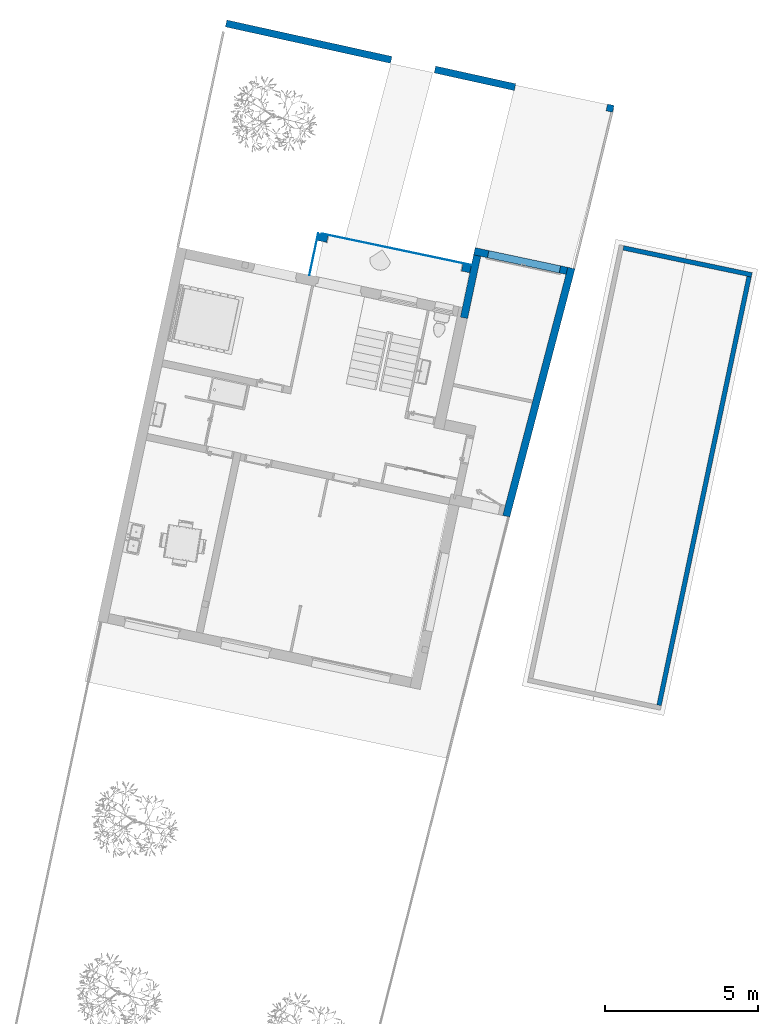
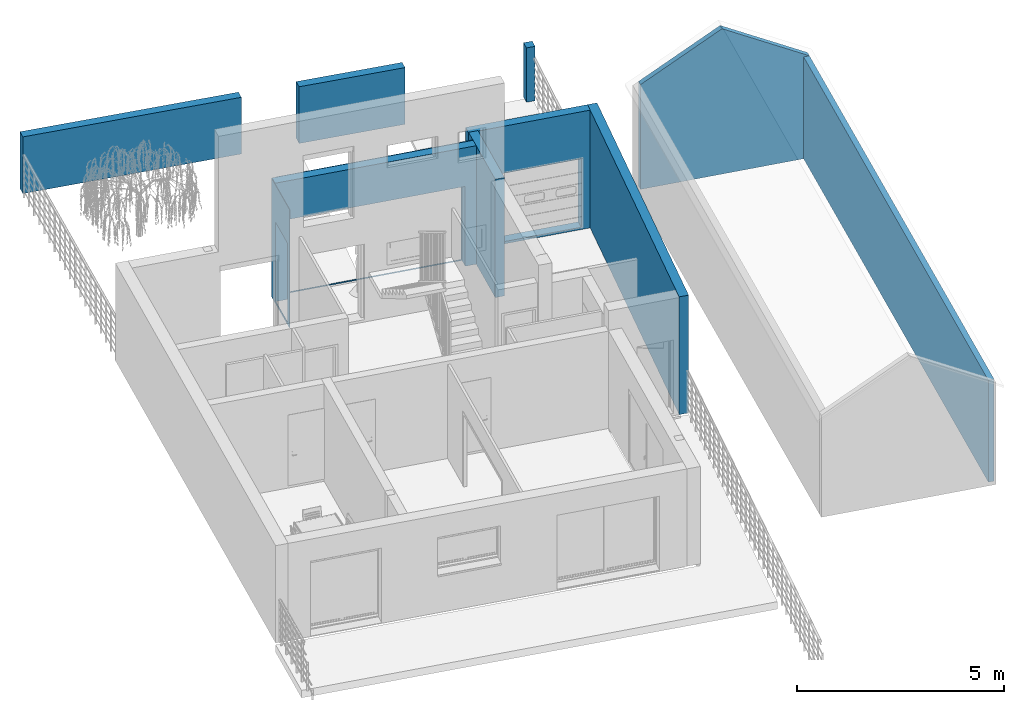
# One storey, part 5 of 20: 11 walls, 7 openings.
"""IFC2X3 building model written with IfcOpenShell, lengths in metres."""

from ifc_helpers import new_model, entity, si_unit, converted_unit, derived_unit, direction, frame, frame_2d, origin, origin_2d_with_axis, place, context, subcontext, project, spatial, polyline, rectangle, outline, extrude, clip, bounded_halfspace, faceted_brep, material, layer, layer_set, layer_usage, type_object, element, save


model = new_model("IFC2X3")

# Units and contexts
model_context = context("Model", 3, precision=1e-05, world=origin(), true_north=direction((6.12303176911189e-17, 1.0)))
body_context = subcontext(model_context, "Body", "Model", "MODEL_VIEW")
ifc_project = project(units=[si_unit("LENGTHUNIT", "METRE"), si_unit("AREAUNIT", "SQUARE_METRE"), si_unit("VOLUMEUNIT", "CUBIC_METRE"), converted_unit("PLANEANGLEUNIT", "DEGREE", entity("IfcRatioMeasure", 0.0174532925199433), si_unit("PLANEANGLEUNIT", "RADIAN"), dimensions=[0, 0, 0, 0, 0, 0, 0]), si_unit("MASSUNIT", "GRAM", prefix="KILO"), derived_unit("MASSDENSITYUNIT", [(si_unit("MASSUNIT", "GRAM", prefix="KILO"), 1), (si_unit("LENGTHUNIT", "METRE"), -3)]), si_unit("TIMEUNIT", "SECOND"), si_unit("FREQUENCYUNIT", "HERTZ"), si_unit("THERMODYNAMICTEMPERATUREUNIT", "DEGREE_CELSIUS"), derived_unit("THERMALTRANSMITTANCEUNIT", [(si_unit("MASSUNIT", "GRAM", prefix="KILO"), 1), (si_unit("THERMODYNAMICTEMPERATUREUNIT", "KELVIN"), -1), (si_unit("TIMEUNIT", "SECOND"), -3)]), derived_unit("VOLUMETRICFLOWRATEUNIT", [(si_unit("LENGTHUNIT", "METRE"), 3), (si_unit("TIMEUNIT", "SECOND"), -1)]), si_unit("ELECTRICCURRENTUNIT", "AMPERE"), si_unit("ELECTRICVOLTAGEUNIT", "VOLT"), si_unit("POWERUNIT", "WATT"), si_unit("FORCEUNIT", "NEWTON", prefix="KILO"), si_unit("ILLUMINANCEUNIT", "LUX"), si_unit("LUMINOUSFLUXUNIT", "LUMEN"), si_unit("LUMINOUSINTENSITYUNIT", "CANDELA"), derived_unit("USERDEFINED", [(si_unit("MASSUNIT", "GRAM", prefix="KILO"), -1), (si_unit("LENGTHUNIT", "METRE"), -2), (si_unit("TIMEUNIT", "SECOND"), 3), (si_unit("LUMINOUSFLUXUNIT", "LUMEN"), 1)]), derived_unit("LINEARVELOCITYUNIT", [(si_unit("LENGTHUNIT", "METRE"), 1), (si_unit("TIMEUNIT", "SECOND"), -1)]), si_unit("PRESSUREUNIT", "PASCAL"), derived_unit("USERDEFINED", [(si_unit("LENGTHUNIT", "METRE"), -2), (si_unit("MASSUNIT", "GRAM", prefix="KILO"), 1), (si_unit("TIMEUNIT", "SECOND"), -2)])], contexts=[model_context])

# Site, building, storey
site_placement = place(None, origin())
site = spatial("IfcSite", under=ifc_project, at=site_placement, Name="Default", CompositionType="ELEMENT")
building_placement = place(site_placement, origin())
building = spatial("IfcBuilding", under=site, at=building_placement, CompositionType="ELEMENT")
storey_placement = place(building_placement, frame((0.0, 0.0, -0.0686871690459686)))
storey = spatial("IfcBuildingStorey", under=building, at=storey_placement, Name="RDC", CompositionType="ELEMENT", Elevation=-0.0686871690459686)

# Wall, openings
ifc_material_1 = material(Name="Enduit blanc cassé2")
ifc_layer_1 = layer(ifc_material_1, 0.02)
ifc_material_2 = material(Name="Parpaing")
ifc_layer_2 = layer(ifc_material_2, 0.2)
ifc_layer_3 = layer(ifc_material_1, 0.02)
ifc_layer_set_1 = layer_set([ifc_layer_1, ifc_layer_2, ifc_layer_3], Name="Mur de base:Ext. Parpaing 2 + 20 + 2")
ifc_layer_usage_1 = layer_usage(ifc_layer_set_1, "AXIS2", "POSITIVE", -0.12)
wall_type_1 = type_object("IfcWallType", Name="Mur de base:Ext. Parpaing 2 + 20 + 2", PredefinedType="STANDARD", material=ifc_layer_set_1)
wall_1_placement = place(storey_placement, frame((-9.06273219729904, 78.4791730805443, 0.0), z_axis=(0.0, 0.0, 1.0), x_axis=(0.254023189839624, 0.967198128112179, 0.0)))
wall_1 = element("IfcWallStandardCase", 1, at=wall_1_placement, inside=storey, type_object=wall_type_1, material=ifc_layer_usage_1, Name="Mur de base:Ext. Parpaing 2 + 20 + 2", ObjectType="Mur de base:Ext. Parpaing 2 + 20 + 2", context=body_context, shape_type="SweptSolid", body=[
    extrude(outline(polyline([(8.3962930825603, -0.12), (8.38480390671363, 0.119999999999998), (8.14452906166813, 0.119999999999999), (3.89701748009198, 0.119999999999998), (3.79689332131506, 0.119999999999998), (0.340389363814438, 0.119999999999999), (0.0, 0.120000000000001), (0.0114891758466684, -0.12), (8.3962930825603, -0.12)])), origin(), (0.0, 0.0, 1.0), 3.46868716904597),
])
opening_1_placement = place(wall_1_placement, origin())
element("IfcOpeningElement", 2, at=opening_1_placement, cuts=wall_1, Name="Mur de base:Ext. Parpaing 2 + 20 + 2", ObjectType="Opening", context=body_context, shape_type="SweptSolid", body=[
    extrude(rectangle(XDim=2.01500000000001, YDim=0.840000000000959, at=frame_2d((0.0, -1.11022302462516e-16), x_axis=(1.0, 0.0))), frame((8.25361621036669, 0.350831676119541, 1.07618716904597), z_axis=(-0.0478168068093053, 0.998856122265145, 0.0), x_axis=(0.0, 0.0, -1.0)), (0.0, 0.0, 1.0), 2.39999999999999),
])
opening_2_placement = place(wall_1_placement, frame((-0.535205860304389, 1.12094692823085, 0.0686871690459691)))
element("IfcOpeningElement", 3, at=opening_2_placement, cuts=wall_1, Name="Mur de base:Ext. Parpaing 2 + 20 + 2", ObjectType="Opening", context=body_context, shape_type="Brep", body=[
    faceted_brep([(1.16754036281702, -0.825510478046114, 2.15999999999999), (1.12354890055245, 0.093437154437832, 2.15999999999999), (0.831882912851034, 0.0794746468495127, 2.15999999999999), (0.875874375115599, -0.839472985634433, 2.15999999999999), (0.228615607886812, -0.870458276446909, 0.0), (0.184624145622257, 0.0484893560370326, 0.0), (0.724006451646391, 0.0743104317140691, 0.0), (0.723528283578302, 0.0842989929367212, 0.0), (0.771473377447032, 0.0865941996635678, 0.0), (0.770038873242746, 0.116559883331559, 0.0), (0.829970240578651, 0.119428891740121, 0.0), (0.831882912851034, 0.0794746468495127, 0.0), (1.12354890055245, 0.093437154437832, 0.0), (1.16754036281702, -0.825510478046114, 0.0), (0.87587437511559, -0.839472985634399, 0.0), (0.877787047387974, -0.879427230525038, 0.0), (0.817855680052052, -0.882296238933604, 0.0), (0.816421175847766, -0.852330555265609, 0.0), (0.768476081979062, -0.854625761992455, 0.0), (0.767997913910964, -0.844637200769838, 0.0), (0.228615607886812, -0.870458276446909, 2.15999999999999), (0.184624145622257, 0.0484893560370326, 2.15999999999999), (0.7240064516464, 0.0743104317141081, 2.15999999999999), (0.771473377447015, 0.0865941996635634, 2.16999999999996), (0.816421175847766, -0.852330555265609, 2.16999999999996), (0.817855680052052, -0.882296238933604, 2.2), (0.770038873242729, 0.116559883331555, 2.2), (0.723528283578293, 0.0842989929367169, 2.16999999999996), (0.767997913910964, -0.844637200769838, 2.15999999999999), (0.768476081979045, -0.85462576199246, 2.16999999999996), (0.829970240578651, 0.119428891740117, 2.2), (0.877787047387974, -0.879427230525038, 2.2)], [[[0, 1, 2, 3]], [[4, 5, 6, 7, 8, 9, 10, 11, 12, 13, 14, 15, 16, 17, 18, 19]], [[13, 0, 3, 14]], [[20, 21, 5, 4]], [[5, 21, 22, 6]], [[1, 0, 13, 12]], [[9, 8, 23, 24, 17, 16, 25, 26]], [[8, 7, 27, 23]], [[7, 6, 22, 28, 19, 18, 29, 27]], [[11, 10, 30, 31, 15, 14, 3, 2]], [[10, 9, 26, 30]], [[24, 23, 27, 29]], [[26, 25, 31, 30]], [[17, 24, 29, 18]], [[25, 16, 15, 31]], [[1, 12, 11, 2]], [[20, 4, 19, 28]], [[21, 20, 28, 22]]]),
])

# Wall, opening
ifc_layer_usage_2 = layer_usage(ifc_layer_set_1, "AXIS2", "POSITIVE", -0.12)
wall_2_placement = place(storey_placement, frame((-7.07375945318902, 86.5020339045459, 0.0), z_axis=(0.0, 0.0, 1.0), x_axis=(-0.978238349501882, 0.207484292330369, 0.0)))
wall_2 = element("IfcWallStandardCase", 4, at=wall_2_placement, inside=storey, type_object=wall_type_1, material=ifc_layer_usage_2, Name="Mur de base:Ext. Parpaing 2 + 20 + 2", ObjectType="Mur de base:Ext. Parpaing 2 + 20 + 2", context=body_context, shape_type="SweptSolid", body=[
    extrude(outline(polyline([(3.09684060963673, -0.119999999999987), (3.09684060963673, 0.120000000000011), (2.85684060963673, 0.120000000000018), (0.0114891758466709, 0.120000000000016), (0.0, -0.119999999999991), (3.09684060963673, -0.119999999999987)])), origin(), (0.0, 0.0, 1.0), 3.46868716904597),
])
opening_3_placement = place(wall_2_placement, frame((-24.8676360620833, 83.1519129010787, 0.0686871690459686), z_axis=(0.0, 0.0, 1.0), x_axis=(-0.978238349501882, -0.207484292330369, 0.0)))
element("IfcOpeningElement", 5, at=opening_3_placement, cuts=wall_2, Name="Mur de base:Ext. Parpaing 2 + 20 + 2", ObjectType="Opening", context=body_context, shape_type="SweptSolid", body=[
    extrude(rectangle(XDim=2.01500000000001, YDim=2.39999999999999, at=frame_2d((0.0, 1.11022302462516e-15), x_axis=(1.0, 0.0))), frame((-8.39218863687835, 87.2110158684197, 1.0075), z_axis=(-0.207484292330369, -0.978238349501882, 0.0), x_axis=(0.0, 0.0, -1.0)), (0.0, 0.0, 1.0), 0.840000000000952),
])

# Wall, openings
ifc_layer_usage_3 = layer_usage(ifc_layer_set_1, "AXIS2", "NEGATIVE", 0.12)
wall_3_placement = place(storey_placement, frame((-10.2276982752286, 86.5576366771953, 0.0), z_axis=(0.0, 0.0, 1.0), x_axis=(-0.978238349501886, 0.20748429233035, 0.0)))
wall_3 = element("IfcWallStandardCase", 6, at=wall_3_placement, inside=storey, type_object=wall_type_1, material=ifc_layer_usage_3, Name="Mur de base:Ext. Parpaing 2 + 20 + 2", ObjectType="Mur de base:Ext. Parpaing 2 + 20 + 2", context=body_context, shape_type="SweptSolid", body=[
    extrude(rectangle(XDim=5.10499966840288, YDim=0.240000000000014, at=frame_2d((2.55249983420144, -8.46545056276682e-16), x_axis=(-1.0, 0.0))), origin(), (0.0, 0.0, 1.0), 3.48868716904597),
])
opening_4_placement = place(wall_3_placement, origin())
element("IfcOpeningElement", 7, at=opening_4_placement, cuts=wall_3, Name="Mur de base:Ext. Parpaing 2 + 20 + 2", ObjectType="Opening", context=body_context, shape_type="SweptSolid", body=[
    extrude(rectangle(XDim=2.34999999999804, YDim=0.240000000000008, at=frame_2d((0.0, 0.0), x_axis=(0.0, 1.0))), frame((4.98499966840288, 0.160239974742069, 1.24368716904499), z_axis=(0.0, 1.0, 0.0), x_axis=(-1.0, 0.0, 0.0)), (0.0, 0.0, 1.0), 0.999999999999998),
])
opening_5_placement = place(wall_3_placement, frame((4.77999999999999, 0.120000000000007, 0.0)))
element("IfcOpeningElement", 8, at=opening_5_placement, cuts=wall_3, Name="Ouverture en rectangle:Ouverture en rectangle 4.50 M 3:1", ObjectType="Opening", context=body_context, shape_type="SweptSolid", body=[
    extrude(rectangle(XDim=2.34999999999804, YDim=4.5, at=frame_2d((1.17499999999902, 2.25), x_axis=(1.0, 0.0))), frame((0.0, 0.0, 0.0), z_axis=(0.0, -1.0, 0.0), x_axis=(0.0, 0.0, 1.0)), (0.0, 0.0, 1.0), 0.24),
])

# Walls
ifc_layer_usage_4 = layer_usage(ifc_layer_set_1, "AXIS2", "NEGATIVE", 0.12)
wall_4_placement = place(storey_placement, frame((-10.442284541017, 84.9675572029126, 0.0), z_axis=(0.0, 0.0, 1.0), x_axis=(0.207484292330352, 0.978238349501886, 0.0)))
element("IfcWallStandardCase", 9, at=wall_4_placement, inside=storey, type_object=wall_type_1, material=ifc_layer_usage_4, Name="Mur de base:Ext. Parpaing 2 + 20 + 2", ObjectType="Mur de base:Ext. Parpaing 2 + 20 + 2", context=body_context, shape_type="SweptSolid", body=[
    extrude(rectangle(XDim=2.07999999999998, YDim=0.240000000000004, at=frame_2d((1.03999999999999, -5.96744875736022e-16), x_axis=(-1.0, 0.0))), origin(), (0.0, 0.0, 1.0), 3.48368716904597),
])
ifc_layer_4 = layer(ifc_material_1, 0.015)
ifc_layer_5 = layer(ifc_material_2, 0.2)
ifc_layer_6 = layer(ifc_material_1, 0.015)
ifc_layer_set_2 = layer_set([ifc_layer_4, ifc_layer_5, ifc_layer_6], Name="Mur de base:Ext. Parpaing 20 + 2 x 1.5")
ifc_layer_usage_5 = layer_usage(ifc_layer_set_2, "AXIS2", "NEGATIVE", 0.115)
wall_type_2 = type_object("IfcWallType", Name="Mur de base:Ext. Parpaing 20 + 2 x 1.5", PredefinedType="STANDARD", material=ifc_layer_set_2)
wall_5_placement = place(storey_placement, frame((-18.217650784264, 94.5904263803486, 0.0), z_axis=(0.0, 0.0, 1.0), x_axis=(0.976513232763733, -0.215457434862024, 0.0)))
element("IfcWallStandardCase", 10, at=wall_5_placement, inside=storey, type_object=wall_type_2, material=ifc_layer_usage_5, Name="Mur de base:Ext. Parpaing 20 + 2 x 1.5", ObjectType="Mur de base:Ext. Parpaing 20 + 2 x 1.5", context=body_context, shape_type="SweptSolid", body=[
    extrude(rectangle(XDim=5.52705433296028, YDim=0.229999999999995, at=frame_2d((2.76352716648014, -8.81239525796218e-16), x_axis=(-1.0, 0.0))), origin(), (0.0, 0.0, 1.0), 1.67),
])
ifc_layer_usage_6 = layer_usage(ifc_layer_set_2, "AXIS2", "NEGATIVE", 0.115)
wall_6_placement = place(storey_placement, frame((-11.3919062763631, 93.0843972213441, 0.0), z_axis=(0.0, 0.0, 1.0), x_axis=(0.976513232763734, -0.215457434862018, 0.0)))
element("IfcWallStandardCase", 11, at=wall_6_placement, inside=storey, type_object=wall_type_2, material=ifc_layer_usage_6, Name="Mur de base:Ext. Parpaing 20 + 2 x 1.5", ObjectType="Mur de base:Ext. Parpaing 20 + 2 x 1.5", context=body_context, shape_type="SweptSolid", body=[
    extrude(rectangle(XDim=2.68, YDim=0.229999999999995, at=frame_2d((1.34, 1.72084568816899e-15), x_axis=(-1.0, 0.0))), origin(), (0.0, 0.0, 1.0), 1.67),
])
ifc_layer_usage_7 = layer_usage(ifc_layer_set_2, "AXIS2", "NEGATIVE", 0.115)
wall_7_placement = place(storey_placement, frame((-5.77482629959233, 91.8450472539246, 0.0), z_axis=(0.0, 0.0, 1.0), x_axis=(0.97651323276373, -0.21545743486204, 0.0)))
element("IfcWallStandardCase", 12, at=wall_7_placement, inside=storey, type_object=wall_type_2, material=ifc_layer_usage_7, Name="Mur de base:Ext. Parpaing 20 + 2 x 1.5", ObjectType="Mur de base:Ext. Parpaing 20 + 2 x 1.5", context=body_context, shape_type="SweptSolid", body=[
    extrude(rectangle(XDim=0.220000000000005, YDim=0.229999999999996, at=frame_2d((0.110000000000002, -4.48252546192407e-15), x_axis=(-1.0, 0.0))), origin(), (0.0, 0.0, 1.0), 1.6),
])

# Wall, opening
ifc_material_3 = material(Name="PIERRE DE PAREMENT")
ifc_layer_7 = layer(ifc_material_3, 0.01)
ifc_layer_set_3 = layer_set([ifc_layer_7], Name="Mur de base:EXT PIERRE DE PREMENT")
ifc_layer_usage_8 = layer_usage(ifc_layer_set_3, "AXIS2", "NEGATIVE", 0.005)
wall_type_3 = type_object("IfcWallType", Name="Mur de base:EXT PIERRE DE PREMENT", PredefinedType="STANDARD", material=ifc_layer_set_3)
wall_8_placement = place(storey_placement, frame((-10.205532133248, 86.6918550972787, 0.0), z_axis=(0.0, 0.0, 1.0), x_axis=(-0.978645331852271, 0.205556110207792, 0.0)))
wall_8 = element("IfcWallStandardCase", 13, at=wall_8_placement, inside=storey, type_object=wall_type_3, material=ifc_layer_usage_8, Name="Mur de base:EXT PIERRE DE PREMENT", ObjectType="Mur de base:EXT PIERRE DE PREMENT", context=body_context, shape_type="SweptSolid", body=[
    extrude(rectangle(XDim=4.99408618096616, YDim=0.00999999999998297, at=frame_2d((2.49704309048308, -3.14375261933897e-15), x_axis=(-1.0, 0.0))), origin(), (0.0, 0.0, 1.0), 3.48868716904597),
])
opening_6_placement = place(wall_8_placement, origin())
element("IfcOpeningElement", 14, at=opening_6_placement, cuts=wall_8, Name="Mur de base:EXT PIERRE DE PREMENT", ObjectType="Opening", context=body_context, shape_type="SweptSolid", body=[
    extrude(rectangle(XDim=2.29382280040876, YDim=4.45970565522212, at=origin_2d_with_axis()), frame((2.52369943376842, 0.00499999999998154, 1.18308859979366), z_axis=(0.0, -1.0, 0.0), x_axis=(0.0, 0.0, -1.0)), (0.0, 0.0, 1.0), 0.01),
])

ifc_layer_usage_9 = layer_usage(ifc_layer_set_3, "AXIS2", "NEGATIVE", 0.005)
wall_9_placement = place(storey_placement, frame((-15.2065339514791, 87.7360953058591, 0.0), z_axis=(0.0, 0.0, 1.0), x_axis=(-0.205556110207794, -0.978645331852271, 0.0)))
wall_9 = element("IfcWallStandardCase", 15, at=wall_9_placement, inside=storey, type_object=wall_type_3, material=ifc_layer_usage_9, Name="Mur de base:EXT PIERRE DE PREMENT", ObjectType="Mur de base:EXT PIERRE DE PREMENT", context=body_context, shape_type="SweptSolid", body=[
    extrude(outline(polyline([(-0.00362075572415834, -0.699891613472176), (0.00637926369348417, -0.699891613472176), (0.00362073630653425, 0.699901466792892), (-0.00637924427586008, 0.69988176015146), (-0.00362075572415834, -0.699891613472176)])), frame((0.6998929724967, 0.0, 0.0), z_axis=(0.0, 0.0, 1.0), x_axis=(0.00197066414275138, 0.999998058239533, 0.0)), (0.0, 0.0, 1.0), 3.48868716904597),
])
opening_7_placement = place(storey_placement, frame((-15.2065339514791, 87.7360953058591, 0.0), z_axis=(0.0, 0.0, 1.0), x_axis=(-0.205556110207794, -0.978645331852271, 0.0)))
element("IfcOpeningElement", 16, at=opening_7_placement, cuts=wall_9, Name="Mur de base:EXT PIERRE DE PREMENT:1", ObjectType="Opening", context=body_context, shape_type="SweptSolid", body=[
    extrude(rectangle(XDim=2.32999999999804, YDim=0.959998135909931, at=frame_2d((0.0, -8.71525074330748e-15), x_axis=(1.0, 0.0))), frame((0.780021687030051, 0.0049999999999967, 1.23368716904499), z_axis=(0.0, -1.0, 0.0), x_axis=(0.0, 0.0, 1.0)), (0.0, 0.0, 1.0), 0.00999999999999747),
])

# Walls
ifc_material_4 = material(Name="Mur par défaut")
ifc_layer_8 = layer(ifc_material_4, 0.15)
ifc_layer_set_4 = layer_set([ifc_layer_8], Name="Mur de base:Générique - Ext. 150 mm")
ifc_layer_usage_10 = layer_usage(ifc_layer_set_4, "AXIS2", "NEGATIVE", 0.075)
wall_type_4 = type_object("IfcWallType", Name="Mur de base:Générique - Ext. 150 mm", PredefinedType="STANDARD", material=ifc_layer_set_4)
wall_10_placement = place(storey_placement, frame((-5.23357182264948, 87.25430115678, 0.0), z_axis=(0.0, 0.0, 1.0), x_axis=(0.978652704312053, -0.20552100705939, 0.0)))
element("IfcWallStandardCase", 17, at=wall_10_placement, inside=storey, type_object=wall_type_4, material=ifc_layer_usage_10, Name="Mur de base:Générique - Ext. 150 mm", ObjectType="Mur de base:Générique - Ext. 150 mm", context=body_context, shape_type="Clipping", body=[
    clip(clip(extrude(rectangle(XDim=4.29000000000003, YDim=0.150000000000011, at=frame_2d((2.14500000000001, -5.16947595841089e-15), x_axis=(-1.0, 0.0))), origin(), (0.0, 0.0, 1.0), 4.28171759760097), bounded_halfspace(frame((2.07, -0.0750000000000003, 4.28171759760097), z_axis=(0.499999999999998, 0.0, 0.86602540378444), x_axis=(0.0, 1.0, 0.0)), False, frame((2.07, -0.0750000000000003, 4.28171759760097)), polyline([(0.0, 0.0), (2.22000000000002, 0.0), (2.22000000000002, 0.150000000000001), (0.0, 0.150000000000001), (0.0, 0.0)]))), bounded_halfspace(frame((0.0, -0.0750000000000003, 3.08660254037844), z_axis=(-0.5, 0.0, 0.866025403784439), x_axis=(0.0, -1.0, 0.0)), False, frame((0.0, -0.0750000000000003, 3.08660254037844)), polyline([(0.0, 0.0), (2.07, 0.0), (2.07000000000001, 0.150000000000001), (0.0, 0.150000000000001), (0.0, 0.0)]))),
])
ifc_layer_usage_11 = layer_usage(ifc_layer_set_4, "AXIS2", "NEGATIVE", 0.075)
wall_11_placement = place(storey_placement, frame((-1.12396474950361, 86.3146311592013, 0.0), z_axis=(0.0, 0.0, 1.0), x_axis=(-0.205521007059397, -0.978652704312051, 0.0)))
element("IfcWallStandardCase", 18, at=wall_11_placement, inside=storey, type_object=wall_type_4, material=ifc_layer_usage_11, Name="Mur de base:Générique - Ext. 150 mm", ObjectType="Mur de base:Générique - Ext. 150 mm", context=body_context, shape_type="SweptSolid", body=[
    extrude(rectangle(XDim=14.3140350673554, YDim=0.149999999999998, at=frame_2d((7.15701753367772, 1.38777878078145e-16), x_axis=(-1.0, 0.0))), origin(), (0.0, 0.0, 1.0), 3.0),
])

save(model, "model.ifc")
